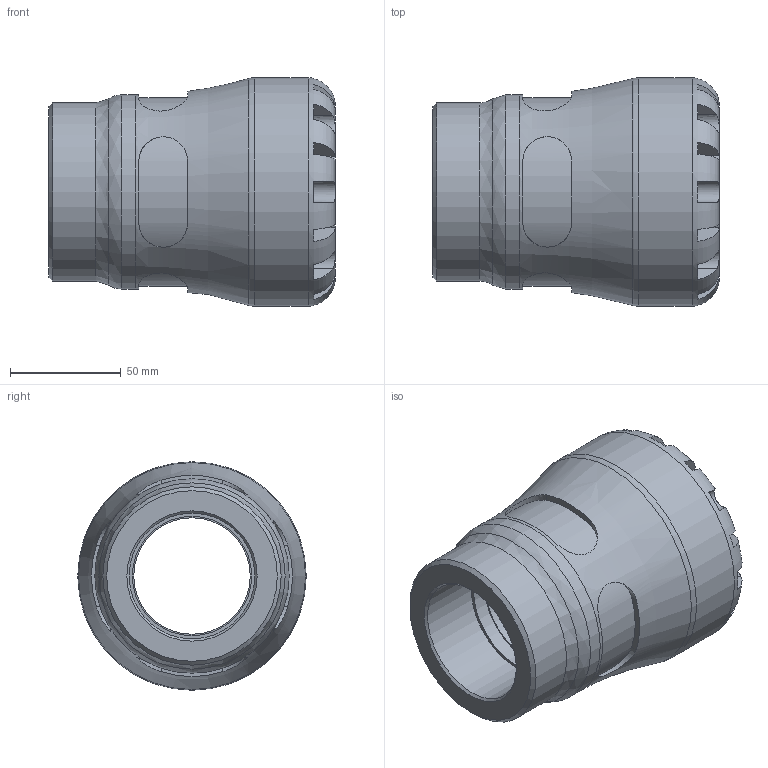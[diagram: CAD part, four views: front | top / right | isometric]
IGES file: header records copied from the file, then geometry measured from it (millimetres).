
Global section: file name: 100300063020_190300063020.ipt; native system: Autodesk Inventor 2015; preprocessor: unknown; author: KIM; date: 20170122.095004; units: millimetre
Bounding box: 129 x 103 x 103 mm (x, y, z)
Volume: 474469.1 mm3; surface area: 73298.5 mm2
Topology: 1 solids, 1 shells, 104 faces, 270 edges, 174 vertices
Faces by surface type: plane 61, revolution 27, cylinder 15, cone 1
Full cylindrical faces by diameter (mm): 80.34 x1, 87.55 x1, 103 x1
